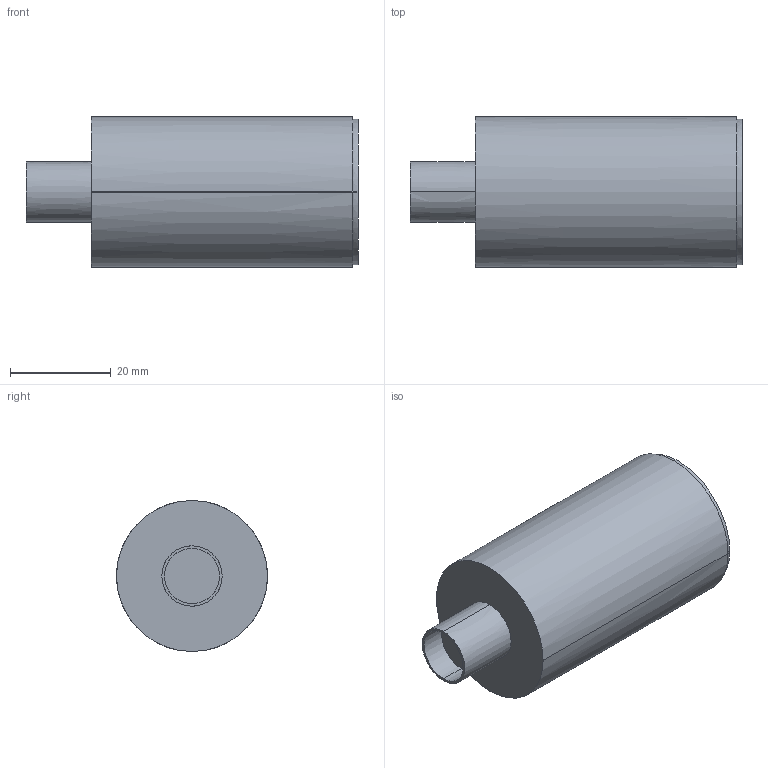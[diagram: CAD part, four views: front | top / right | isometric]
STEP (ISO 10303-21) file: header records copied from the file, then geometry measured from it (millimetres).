
FILE_DESCRIPTION((''),'2;1');
FILE_NAME('875C_PG4-12_MICRO_QD_M30','2010-10-05T',('Administrator'),(''),'PRO/ENGINEER BY PARAMETRIC TECHNOLOGY CORPORATION, 2006010','PRO/ENGINEER BY PARAMETRIC TECHNOLOGY CORPORATION, 2006010','');
FILE_SCHEMA(('CONFIG_CONTROL_DESIGN'));
Length unit declared in the file: millimetre
Products named in the file (1): 875C_PG4-12_MICRO_QD_M30
Bounding box: 66 x 30 x 30 mm (x, y, z)
Surface area: 7068.6 mm2 (no closed solid volume)
Topology: 0 solids, 0 shells, 13 faces, 64 edges, 72 vertices
Faces by surface type: bspline 13
Entity records: 1658 total; most frequent: CARTESIAN_POINT 1091, DIRECTION 98, TRIMMED_CURVE 72, VECTOR 48, LINE 48, DEFINITIONAL_REPRESENTATION 48, PCURVE 48, COMPOSITE_CURVE_SEGMENT 48
